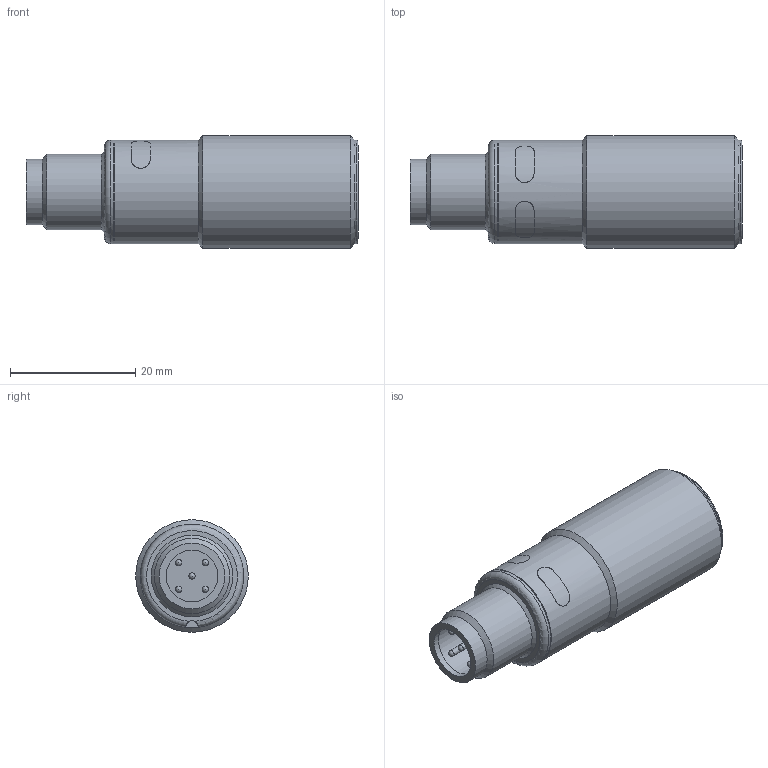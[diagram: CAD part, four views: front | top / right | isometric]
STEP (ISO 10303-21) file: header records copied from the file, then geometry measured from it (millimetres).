
FILE_DESCRIPTION(/* description */ ('Ipc-25 /CXX/M18'),/* implementation_level */ '2;1');
FILE_NAME(/* name */ 'J:\Projekte\Kunststoff-Blechteile\Zeichnungen\Bibliothek Inventor\3D Solids\pico+\STP\pico+100\pico+100_X.stp',/* time_stamp */ '2017-11-06T12:09:46+01:00',/* author */ ('Oliver Liedtke'),/* organization */ (''),/* preprocessor_version */ 'ST-DEVELOPER v16.5',/* originating_system */ 'Autodesk Inventor 2017',/* authorisation */ '');
FILE_SCHEMA (('AUTOMOTIVE_DESIGN { 1 0 10303 214 3 1 1 }'));
Length unit declared in the file: millimetre
Products named in the file (1): pico+100_X
Bounding box: 53 x 18 x 18 mm (x, y, z)
Volume: 10468.4 mm3; surface area: 3456 mm2
Topology: 1 solids, 1 shells, 50 faces, 111 edges, 72 vertices
Faces by surface type: cylinder 20, plane 15, sphere 5, cone 4, bspline 4, torus 2
Full cylindrical faces by diameter (mm): 1 x5, 8.3 x1, 9 x1, 10.5 x2, 12 x1, 14.8 x1, 16.3 x1, 16.5 x3, 18 x1
Entity records: 2790 total; most frequent: CARTESIAN_POINT 1773, DIRECTION 202, ORIENTED_EDGE 138, AXIS2_PLACEMENT_3D 96, EDGE_LOOP 86, EDGE_CURVE 69, VERTEX_POINT 57, FACE_OUTER_BOUND 50
